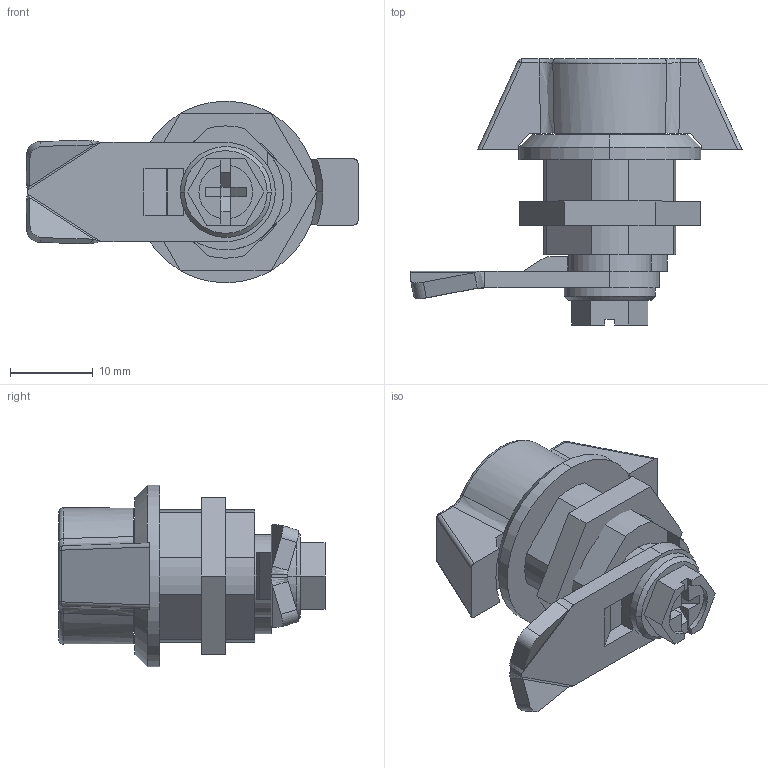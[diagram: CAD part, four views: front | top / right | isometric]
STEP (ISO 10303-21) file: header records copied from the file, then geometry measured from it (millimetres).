
FILE_DESCRIPTION (( 'STEP AP214' ), '1' );
FILE_NAME ('115.1-SK-13,5-SW.step', '2021-10-26T10:59:25', ( '' ), ( '' ), 'SwSTEP 2.0', 'SolidWorks 2019', '' );
FILE_SCHEMA (( 'AUTOMOTIVE_DESIGN' ));
Length unit declared in the file: millimetre
Products named in the file (5): WB115.1_Gehäuse^WB115.1_22-SW; WB115.1_Gegenmutter^WB115.1; WB115.1_Betätigungswelle^WB115.1_SK; WB115.1_Zunge^WB115.1_2.2-13,5; 115.1-SK-13,5-SW
Assembly tree (4 placements, depth 2):
  115.1-SK-13,5-SW
    WB115.1_Gehäuse^WB115.1_22-SW
    WB115.1_Betätigungswelle^WB115.1_SK
    WB115.1_Zunge^WB115.1_2.2-13,5
    WB115.1_Gegenmutter^WB115.1
Bounding box: 40.18 x 32.2 x 22 mm (x, y, z)
Volume: 7546.2 mm3; surface area: 5758.8 mm2
Topology: 4 solids, 4 shells, 170 faces, 408 edges, 255 vertices
Faces by surface type: plane 94, cylinder 51, bspline 12, cone 7, sphere 4, torus 2
Entity records: 5906 total; most frequent: CARTESIAN_POINT 1248, ORIENTED_EDGE 816, DIRECTION 791, EDGE_CURVE 408, AXIS2_PLACEMENT_3D 270, VERTEX_POINT 255, LINE 251, VECTOR 251
